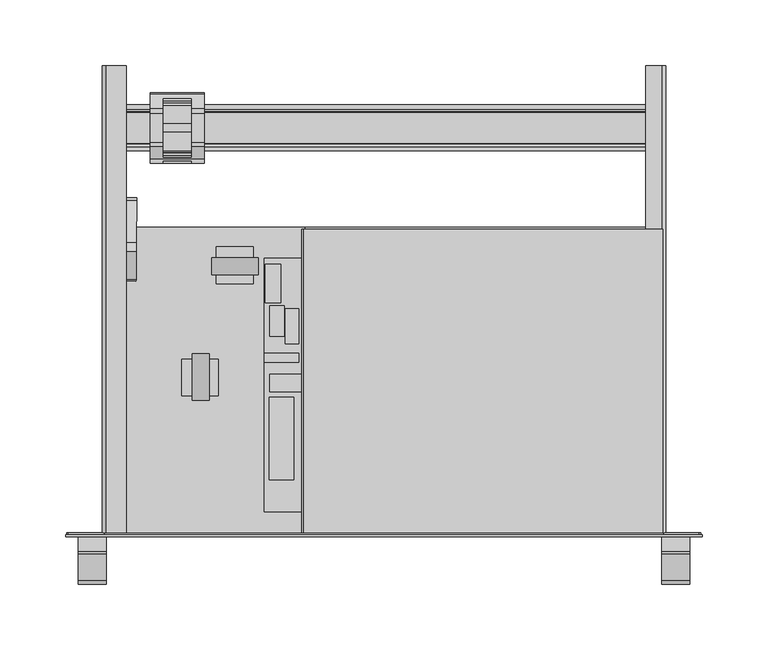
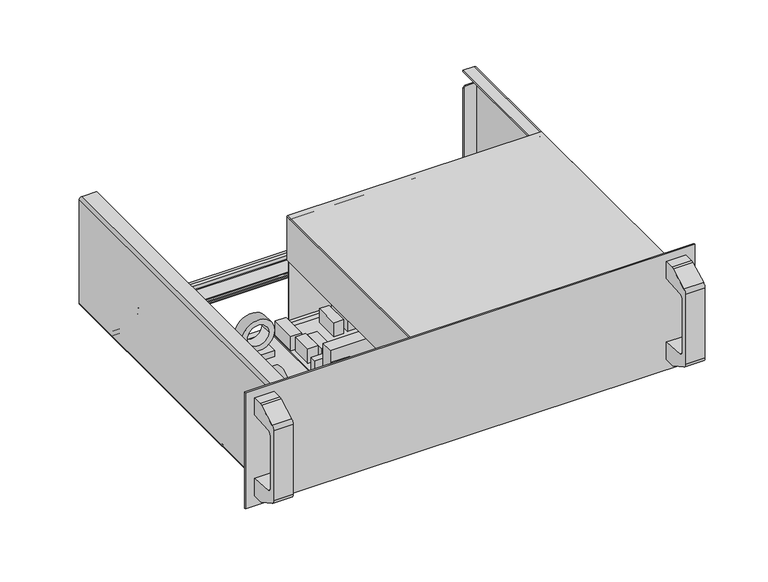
"""IFC4 building model written with IfcOpenShell, lengths in millimetres: proxy geometry, EV 12A 48A RACK : EV 12A 48A RACK."""

from ifc_helpers import new_model, si_unit, point, frame, frame_2d, origin, origin_with_axes, place, context, project, spatial, polyline, circle_curve, trimmed, segment, composite_curve, outline, extrude, source, transform, mapped, element, save


def electrical_equipment_aec54d99(model_context):
    return source(origin(), model_context, "Body", "SweptSolid", [
        extrude(outline(polyline([(-72.7569732, 16.9845943), (33.7706268, 16.9845943), (33.7706268, 3.7100417), (-72.7569732, 3.7100417), (-72.7569732, 16.9845943)])), frame((0.0, 0.0, 19.1), z_axis=(0.0, 0.0, 1.0), x_axis=(1.0, 0.0, 0.0)), (0.0, 0.0, 1.0), 40.2),
        extrude(outline(composite_curve([segment(trimmed(circle_curve(frame_2d((-36.429194, -14.4402246)), 6.7), [point((-43.129194, -14.4402246))], [point((-29.729194, -14.4402246))], False, "CARTESIAN"), True, "CONTINUOUS"), segment(trimmed(circle_curve(frame_2d((-36.429194, -14.4402246)), 6.7), [point((-29.729194, -14.4402246))], [point((-43.129194, -14.4402246))], False, "CARTESIAN"), True, "CONTINUOUS")], self_intersect=False)), frame((0.0, 0.0, 19.1), z_axis=(0.0, 0.0, 1.0), x_axis=(1.0, 0.0, 0.0)), (0.0, 0.0, 1.0), 31.5),
        extrude(outline(composite_curve([segment(trimmed(circle_curve(frame_2d((-34.5093887, -36.0838951)), 7.1), [point((-41.6093887, -36.0838951))], [point((-27.4093887, -36.0838951))], False, "CARTESIAN"), True, "CONTINUOUS"), segment(trimmed(circle_curve(frame_2d((-34.5093887, -36.0838951)), 7.1), [point((-27.4093887, -36.0838951))], [point((-41.6093887, -36.0838951))], False, "CARTESIAN"), True, "CONTINUOUS")], self_intersect=False)), frame((0.0, 0.0, 19.1), z_axis=(0.0, 0.0, 1.0), x_axis=(1.0, 0.0, 0.0)), (0.0, 0.0, 1.0), 31.5),
        extrude(outline(composite_curve([segment(trimmed(circle_curve(frame_2d((-40.6186425, -51.8764288)), 6.8), [point((-47.4186425, -51.8764288))], [point((-33.8186425, -51.8764288))], False, "CARTESIAN"), True, "CONTINUOUS"), segment(trimmed(circle_curve(frame_2d((-40.6186425, -51.8764288)), 6.8), [point((-33.8186425, -51.8764288))], [point((-47.4186425, -51.8764288))], False, "CARTESIAN"), True, "CONTINUOUS")], self_intersect=False)), frame((0.0, 0.0, 19.1), z_axis=(0.0, 0.0, 1.0), x_axis=(1.0, 0.0, 0.0)), (0.0, 0.0, 1.0), 31.5),
        extrude(outline(polyline([(-21.2703727, -25.5856057), (7.7618273, -25.5856057), (7.7618273, -37.3966057), (-21.2703727, -37.3966057), (-21.2703727, -25.5856057)])), frame((0.0, 0.0, 17.5), z_axis=(0.0, 0.0, 1.0), x_axis=(1.0, 0.0, 0.0)), (0.0, 0.0, 1.0), 17.8),
        extrude(outline(polyline([(-21.2703727, -9.9646057), (7.3880344, -9.9646057), (7.3880344, -22.1300845), (-21.2703727, -22.1300845), (-21.2703727, -9.9646057)])), frame((0.0, 0.0, 17.5), z_axis=(0.0, 0.0, 1.0), x_axis=(1.0, 0.0, 0.0)), (0.0, 0.0, 1.0), 17.8),
        extrude(outline(polyline([(-21.0417727, -71.2294057), (-21.0417727, -42.1972057), (-9.2307727, -42.1972057), (-9.2307727, -71.2294057), (-21.0417727, -71.2294057)])), frame((0.0, 0.0, 17.5), z_axis=(0.0, 0.0, 1.0), x_axis=(1.0, 0.0, 0.0)), (0.0, 0.0, 1.0), 17.8),
        extrude(outline(polyline([(-50.8105727, 32.701795), (-50.8105727, 26.1933546), (-76.8963727, 26.1933546), (-76.8963727, 32.701795), (-50.8105727, 32.701795)])), frame((0.0, 0.0, 17.5), z_axis=(0.0, 0.0, 1.0), x_axis=(1.0, 0.0, 0.0)), (0.0, 0.0, 1.0), 17.8),
        extrude(outline(polyline([(-61.7587732, 68.7245943), (-61.7587732, 45.8645943), (-72.7569732, 45.8645943), (-72.7569732, 68.7245943), (-61.7587732, 68.7245943)])), frame((0.0, 0.0, 17.5), z_axis=(0.0, 0.0, 1.0), x_axis=(1.0, 0.0, 0.0)), (0.0, 0.0, 1.0), 17.8),
        extrude(outline(polyline([(-64.5265727, 100.3475943), (-64.5265727, 71.3153943), (-76.3375727, 71.3153943), (-76.3375727, 100.3475943), (-64.5265727, 100.3475943)])), frame((0.0, 0.0, 17.5), z_axis=(0.0, 0.0, 1.0), x_axis=(1.0, 0.0, 0.0)), (0.0, 0.0, 1.0), 17.8),
        extrude(outline(polyline([(-50.8105727, 66.5655943), (-50.8105727, 40.0479943), (-61.1900833, 40.0479943), (-61.1900833, 66.5655943), (-50.8105727, 66.5655943)])), frame((0.0, 0.0, 17.5), z_axis=(0.0, 0.0, 1.0), x_axis=(1.0, 0.0, 0.0)), (0.0, 0.0, 1.0), 17.8),
        extrude(outline(polyline([(-111.9035169, 28.2806945), (-111.9035169, 0.6367966), (-139.6936789, 0.6367966), (-139.6936789, 28.2806945), (-111.9035169, 28.2806945)])), frame((0.0, 0.0, 7.5), z_axis=(0.0, 0.0, 1.0), x_axis=(1.0, 0.0, 0.0)), (0.0, 0.0, 1.0), 6.5411735),
        extrude(outline(polyline([(-85.4693798, 113.6425951), (-85.4693798, 85.5525919), (-113.559383, 85.5525919), (-113.559383, 113.6425951), (-85.4693798, 113.6425951)])), frame((0.0, 0.0, 7.5), z_axis=(0.0, 0.0, 1.0), x_axis=(1.0, 0.0, 0.0)), (0.0, 0.0, 1.0), 6.5411735),
        extrude(outline(composite_curve([segment(polyline([(129.0, 225.5526273), (129.0, -47.4473727)]), True, "CONTINUOUS"), segment(trimmed(circle_curve(frame_2d((128.0, -47.4473727)), 1.0), [point((129.0, -47.4473727))], [point((128.0, -48.4473727))], False, "CARTESIAN"), True, "CONTINUOUS"), segment(polyline([(128.0, -48.4473727), (79.0, -48.4473727), (79.0, -47.4473727), (128.0, -47.4473727), (128.0, 225.5526273), (129.0, 225.5526273)]), True, "CONTINUOUS")], self_intersect=False)), frame((0.0, -103.5804057, 0.0), z_axis=(0.0, 1.0, 0.0), x_axis=(0.0, 0.0, 1.0)), (0.0, 0.0, 1.0), 230.5),
        extrude(outline(composite_curve([segment(trimmed(circle_curve(frame_2d((14.8869551, 31.5628403)), 17.6593111), [point((32.5462662, 31.5628403))], [point((-2.7723559, 31.5628403))], False, "CARTESIAN"), True, "CONTINUOUS"), segment(trimmed(circle_curve(frame_2d((14.8869551, 31.5628403)), 17.6593111), [point((-2.7723559, 31.5628403))], [point((32.5462662, 31.5628403))], False, "CARTESIAN"), True, "CONTINUOUS")], self_intersect=False), holes=[composite_curve([segment(trimmed(circle_curve(frame_2d((14.8869551, 31.5628403)), 11.5), [point((26.3869551, 31.5628403))], [point((3.3869551, 31.5628403))], True, "CARTESIAN"), True, "CONTINUOUS"), segment(trimmed(circle_curve(frame_2d((14.8869551, 31.5628403)), 11.5), [point((3.3869551, 31.5628403))], [point((26.3869551, 31.5628403))], True, "CARTESIAN"), True, "CONTINUOUS")], self_intersect=False)]), frame((-131.5973727, 0.0, 0.0), z_axis=(1.0, 0.0, 0.0), x_axis=(0.0, 1.0, 0.0)), (0.0, 0.0, 1.0), 12.75),
        extrude(outline(composite_curve([segment(trimmed(circle_curve(frame_2d((36.1, 151.0880473)), 17.6593111), [point((36.1, 168.7473583))], [point((36.1, 133.4287362))], False, "CARTESIAN"), True, "CONTINUOUS"), segment(trimmed(circle_curve(frame_2d((36.1, 151.0880473)), 17.6593111), [point((36.1, 133.4287362))], [point((36.1, 168.7473583))], False, "CARTESIAN"), True, "CONTINUOUS")], self_intersect=False), holes=[composite_curve([segment(trimmed(circle_curve(frame_2d((36.1, 151.0880473)), 11.5), [point((36.1, 162.5880473))], [point((36.1, 139.5880473))], True, "CARTESIAN"), True, "CONTINUOUS"), segment(trimmed(circle_curve(frame_2d((36.1, 151.0880473)), 11.5), [point((36.1, 139.5880473))], [point((36.1, 162.5880473))], True, "CARTESIAN"), True, "CONTINUOUS")], self_intersect=False)]), frame((0.0, 39.6966943, 0.0), z_axis=(0.0, 1.0, 0.0), x_axis=(0.0, 0.0, 1.0)), (0.0, 0.0, 1.0), 18.0),
        extrude(outline(composite_curve([segment(trimmed(circle_curve(frame_2d((36.1, 76.9425516)), 17.0), [point((36.1, 93.9425516))], [point((36.1, 59.9425516))], False, "CARTESIAN"), True, "CONTINUOUS"), segment(trimmed(circle_curve(frame_2d((36.1, 76.9425516)), 17.0), [point((36.1, 59.9425516))], [point((36.1, 93.9425516))], False, "CARTESIAN"), True, "CONTINUOUS")], self_intersect=False), holes=[composite_curve([segment(trimmed(circle_curve(frame_2d((36.1, 76.9425516)), 11.5), [point((36.1, 88.4425516))], [point((36.1, 65.4425516))], True, "CARTESIAN"), True, "CONTINUOUS"), segment(trimmed(circle_curve(frame_2d((36.1, 76.9425516)), 11.5), [point((36.1, 65.4425516))], [point((36.1, 88.4425516))], True, "CARTESIAN"), True, "CONTINUOUS")], self_intersect=False)]), frame((0.0, -36.8549363, 0.0), z_axis=(0.0, 1.0, 0.0), x_axis=(0.0, 0.0, 1.0)), (0.0, 0.0, 1.0), 12.75),
        extrude(outline(composite_curve([segment(trimmed(circle_curve(frame_2d((36.1, 36.4625333)), 17.6593111), [point((36.1, 54.1218443))], [point((36.1, 18.8032222))], False, "CARTESIAN"), True, "CONTINUOUS"), segment(trimmed(circle_curve(frame_2d((36.1, 36.4625333)), 17.6593111), [point((36.1, 18.8032222))], [point((36.1, 54.1218443))], False, "CARTESIAN"), True, "CONTINUOUS")], self_intersect=False), holes=[composite_curve([segment(trimmed(circle_curve(frame_2d((36.1, 36.4625333)), 11.5), [point((36.1, 47.9625333))], [point((36.1, 24.9625333))], True, "CARTESIAN"), True, "CONTINUOUS"), segment(trimmed(circle_curve(frame_2d((36.1, 36.4625333)), 11.5), [point((36.1, 24.9625333))], [point((36.1, 47.9625333))], True, "CARTESIAN"), True, "CONTINUOUS")], self_intersect=False)]), frame((0.0, -36.8549363, 0.0), z_axis=(0.0, 1.0, 0.0), x_axis=(0.0, 0.0, 1.0)), (0.0, 0.0, 1.0), 12.75),
        extrude(outline(composite_curve([segment(trimmed(circle_curve(frame_2d((31.5628403, -99.2386196)), 17.6593111), [point((31.5628403, -81.5793086))], [point((31.5628403, -116.8979307))], False, "CARTESIAN"), True, "CONTINUOUS"), segment(trimmed(circle_curve(frame_2d((31.5628403, -99.2386196)), 17.6593111), [point((31.5628403, -116.8979307))], [point((31.5628403, -81.5793086))], False, "CARTESIAN"), True, "CONTINUOUS")], self_intersect=False), holes=[composite_curve([segment(trimmed(circle_curve(frame_2d((31.5628403, -99.2386196)), 11.5), [point((31.5628403, -87.7386196))], [point((31.5628403, -110.7386196))], True, "CARTESIAN"), True, "CONTINUOUS"), segment(trimmed(circle_curve(frame_2d((31.5628403, -99.2386196)), 11.5), [point((31.5628403, -110.7386196))], [point((31.5628403, -87.7386196))], True, "CARTESIAN"), True, "CONTINUOUS")], self_intersect=False)]), frame((0.0, 92.4195943, 0.0), z_axis=(0.0, 1.0, 0.0), x_axis=(0.0, 0.0, 1.0)), (0.0, 0.0, 1.0), 12.75),
        extrude(outline(polyline([(-54.7983727, -0.4904057), (-54.7983727, -63.3554057), (-73.2133727, -63.3554057), (-73.2133727, -0.4904057), (-54.7983727, -0.4904057)])), frame((0.0, 0.0, 19.1), z_axis=(0.0, 0.0, 1.0), x_axis=(1.0, 0.0, 0.0)), (0.0, 0.0, 1.0), 29.5),
        extrude(outline(polyline([(167.0808273, -43.9650679), (167.0808273, -73.1742057), (167.0808273, -86.3958226), (147.0808273, -86.3958226), (36.9442273, -86.3958226), (36.9442273, -56.3716057), (147.0808273, -56.3716057), (147.0808273, -43.9650679), (167.0808273, -43.9650679)])), frame((0.0, 0.0, 19.1), z_axis=(0.0, 0.0, 1.0), x_axis=(1.0, 0.0, 0.0)), (0.0, 0.0, 1.0), 45.0),
        extrude(outline(polyline([(128.7611737, 64.1017943), (128.7611737, 38.0667943), (120.4730775, 38.0667943), (120.4730775, 64.1017943), (128.7611737, 64.1017943)])), frame((0.0, 0.0, 17.5), z_axis=(0.0, 0.0, 1.0), x_axis=(1.0, 0.0, 0.0)), (0.0, 0.0, 1.0), 17.8),
        extrude(outline(polyline([(171.7442273, -87.5616057), (-77.0233727, -87.5616057), (-77.0233727, 104.9957943), (171.7442273, 104.9957943), (171.7442273, -87.5616057)])), frame((0.0, 0.0, 17.5), z_axis=(0.0, 0.0, 1.0), x_axis=(1.0, 0.0, 0.0)), (0.0, 0.0, 1.0), 1.6),
        extrude(outline(polyline([(161.0508273, 30.2943943), (161.0508273, -28.1256057), (100.8020273, -28.1256057), (100.8020273, 30.2943943), (161.0508273, 30.2943943)])), frame((0.0, 0.0, 19.1), z_axis=(0.0, 0.0, 1.0), x_axis=(1.0, 0.0, 0.0)), (0.0, 0.0, 1.0), 55.0),
        extrude(outline(polyline([(-20.2035727, 97.1725943), (-20.2035727, 70.6549943), (-30.5830833, 70.6549943), (-30.5830833, 97.1725943), (-20.2035727, 97.1725943)])), frame((0.0, 0.0, 17.5), z_axis=(0.0, 0.0, 1.0), x_axis=(1.0, 0.0, 0.0)), (0.0, 0.0, 1.0), 17.8),
        extrude(outline(polyline([(167.0808273, 101.8257943), (167.0808273, 71.8257943), (167.0808273, 61.2614943), (147.0808273, 61.2614943), (147.0808273, 71.8257943), (-15.1357727, 71.8257943), (-15.1357727, 101.8257943), (167.0808273, 101.8257943)])), frame((0.0, 0.0, 19.1), z_axis=(0.0, 0.0, 1.0), x_axis=(1.0, 0.0, 0.0)), (0.0, 0.0, 1.0), 45.0),
        extrude(outline(composite_curve([segment(trimmed(circle_curve(frame_2d((102.3743586, 50.3664957)), 17.6348629), [point((84.7394956, 50.3664957))], [point((120.0092215, 50.3664957))], False, "CARTESIAN"), True, "CONTINUOUS"), segment(trimmed(circle_curve(frame_2d((102.3743586, 50.3664957)), 17.6348629), [point((120.0092215, 50.3664957))], [point((84.7394956, 50.3664957))], False, "CARTESIAN"), True, "CONTINUOUS")], self_intersect=False)), frame((0.0, 0.0, 19.1), z_axis=(0.0, 0.0, 1.0), x_axis=(1.0, 0.0, 0.0)), (0.0, 0.0, 1.0), 42.0),
        extrude(outline(composite_curve([segment(trimmed(circle_curve(frame_2d((66.596714, 50.2520288)), 17.6348629), [point((48.9618511, 50.2520288))], [point((84.231577, 50.2520288))], False, "CARTESIAN"), True, "CONTINUOUS"), segment(trimmed(circle_curve(frame_2d((66.596714, 50.2520288)), 17.6348629), [point((84.231577, 50.2520288))], [point((48.9618511, 50.2520288))], False, "CARTESIAN"), True, "CONTINUOUS")], self_intersect=False)), frame((0.0, 0.0, 19.1), z_axis=(0.0, 0.0, 1.0), x_axis=(1.0, 0.0, 0.0)), (0.0, 0.0, 1.0), 42.0),
        extrude(outline(composite_curve([segment(trimmed(circle_curve(frame_2d((84.2982971, -8.7470869)), 8.2), [point((76.0982971, -8.7470869))], [point((92.4982971, -8.7470869))], False, "CARTESIAN"), True, "CONTINUOUS"), segment(trimmed(circle_curve(frame_2d((84.2982971, -8.7470869)), 8.2), [point((92.4982971, -8.7470869))], [point((76.0982971, -8.7470869))], False, "CARTESIAN"), True, "CONTINUOUS")], self_intersect=False)), frame((0.0, 0.0, 19.1), z_axis=(0.0, 0.0, 1.0), x_axis=(1.0, 0.0, 0.0)), (0.0, 0.0, 1.0), 37.0),
        extrude(outline(composite_curve([segment(trimmed(circle_curve(frame_2d((66.412201, -8.7470869)), 8.2), [point((58.212201, -8.7470869))], [point((74.612201, -8.7470869))], False, "CARTESIAN"), True, "CONTINUOUS"), segment(trimmed(circle_curve(frame_2d((66.412201, -8.7470869)), 8.2), [point((74.612201, -8.7470869))], [point((58.212201, -8.7470869))], False, "CARTESIAN"), True, "CONTINUOUS")], self_intersect=False)), frame((0.0, 0.0, 19.1), z_axis=(0.0, 0.0, 1.0), x_axis=(1.0, 0.0, 0.0)), (0.0, 0.0, 1.0), 37.0),
        extrude(outline(composite_curve([segment(trimmed(circle_curve(frame_2d((49.3707124, -8.7470869)), 8.2), [point((41.1707124, -8.7470869))], [point((57.5707124, -8.7470869))], False, "CARTESIAN"), True, "CONTINUOUS"), segment(trimmed(circle_curve(frame_2d((49.3707124, -8.7470869)), 8.2), [point((57.5707124, -8.7470869))], [point((41.1707124, -8.7470869))], False, "CARTESIAN"), True, "CONTINUOUS")], self_intersect=False)), frame((0.0, 0.0, 19.1), z_axis=(0.0, 0.0, 1.0), x_axis=(1.0, 0.0, 0.0)), (0.0, 0.0, 1.0), 37.0),
        extrude(outline(composite_curve([segment(polyline([(125.4195943, 124.5), (118.4195943, 124.5), (113.4195943, 124.5), (113.4195943, 126.0), (118.4195943, 126.0), (125.4195943, 126.0)]), True, "CONTINUOUS"), segment(trimmed(circle_curve(frame_2d((125.4195943, 123.0)), 3.0), [point((125.4195943, 126.0))], [point((128.4195943, 123.0))], False, "CARTESIAN"), True, "CONTINUOUS"), segment(polyline([(128.4195943, 123.0), (128.4195943, 9.0)]), True, "CONTINUOUS"), segment(trimmed(circle_curve(frame_2d((125.4195943, 9.0)), 3.0), [point((128.4195943, 9.0))], [point((125.4195943, 6.0))], False, "CARTESIAN"), True, "CONTINUOUS"), segment(polyline([(125.4195943, 6.0), (-103.5804057, 6.0), (-103.5804057, 7.5), (125.4195943, 7.5)]), True, "CONTINUOUS"), segment(trimmed(circle_curve(frame_2d((125.4195943, 9.0)), 1.5), [point((125.4195943, 7.5))], [point((126.9195943, 9.0))], True, "CARTESIAN"), True, "CONTINUOUS"), segment(polyline([(126.9195943, 9.0), (126.9195943, 123.0)]), True, "CONTINUOUS"), segment(trimmed(circle_curve(frame_2d((125.4195943, 123.0)), 1.5), [point((126.9195943, 123.0))], [point((125.4195943, 124.5))], True, "CARTESIAN"), True, "CONTINUOUS")], self_intersect=False)), frame((-45.8473727, 0.0, 0.0), z_axis=(1.0, 0.0, 0.0), x_axis=(0.0, 1.0, 0.0)), (0.0, 0.0, 1.0), 270.4),
        extrude(outline(polyline([(222.5526273, -103.5804057), (-194.8473727, -103.5804057), (-196.8473727, -101.5804057), (-196.8026476, 126.4643194), (-194.8473727, 128.4195943), (-45.8473727, 128.4195943), (-45.8473727, 125.4195943), (224.5526273, 125.4195943), (224.5526273, -101.5804057), (222.5526273, -103.5804057)])), frame((0.0, 0.0, 6.0), z_axis=(0.0, 0.0, 1.0), x_axis=(1.0, 0.0, 0.0)), (0.0, 0.0, 1.0), 1.5),
        extrude(outline(polyline([(25.7676273, -77.5794057), (-6.2307727, -77.5794057), (-9.2307727, -74.5794057), (-9.2307727, -44.8162057), (-6.2307727, -41.8162057), (25.7676273, -41.8162057), (28.7676273, -44.8162057), (28.7676273, -74.5794057), (25.7676273, -77.5794057)])), frame((0.0, 0.0, 19.1), z_axis=(0.0, 0.0, 1.0), x_axis=(1.0, 0.0, 0.0)), (0.0, 0.0, 1.0), 49.3),
        extrude(outline(composite_curve([segment(trimmed(circle_curve(frame_2d((0.0, -2.0)), 2.0), [point((-2.0, -2.0))], [point((0.0, 0.0))], False, "CARTESIAN"), True, "CONTINUOUS"), segment(polyline([(0.0, 0.0), (24.0, 0.0)]), True, "CONTINUOUS"), segment(trimmed(circle_curve(frame_2d((24.0, -2.0)), 2.0), [point((24.0, 0.0))], [point((26.0, -2.0))], False, "CARTESIAN"), True, "CONTINUOUS"), segment(polyline([(26.0, -2.0), (26.0, -26.0)]), True, "CONTINUOUS"), segment(trimmed(circle_curve(frame_2d((24.0, -26.0)), 2.0), [point((26.0, -26.0))], [point((24.0, -28.0))], False, "CARTESIAN"), True, "CONTINUOUS"), segment(polyline([(24.0, -28.0), (0.0, -28.0)]), True, "CONTINUOUS"), segment(trimmed(circle_curve(frame_2d((0.0, -26.0)), 2.0), [point((0.0, -28.0))], [point((-2.0, -26.0))], False, "CARTESIAN"), True, "CONTINUOUS"), segment(polyline([(-2.0, -26.0), (-2.0, -2.0)]), True, "CONTINUOUS")], self_intersect=False)), frame((-193.8376728, 151.7097301, 78.25), z_axis=(-0.999952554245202, 0.009741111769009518, 0.0), x_axis=(0.0, 0.0, -1.0)), (0.0, 0.0, 1.0), 2.25),
        extrude(outline(composite_curve([segment(polyline([(-34.5, 1e-07), (0.0, 0.0)]), True, "CONTINUOUS"), segment(trimmed(circle_curve(frame_2d((0.0, -4.9999999)), 5.0), [point((0.0, 0.0))], [point((5.0, -5.0))], False, "CARTESIAN"), True, "CONTINUOUS"), segment(polyline([(5.0, -5.0), (5.0, -45.5)]), True, "CONTINUOUS"), segment(trimmed(circle_curve(frame_2d((0.0, -45.4999999)), 5.0), [point((5.0, -45.5))], [point((0.0, -50.4999999))], False, "CARTESIAN"), True, "CONTINUOUS"), segment(polyline([(0.0, -50.4999999), (-34.5, -50.5)]), True, "CONTINUOUS"), segment(trimmed(circle_curve(frame_2d((-34.4999999, -45.5)), 5.0), [point((-34.5, -50.5))], [point((-39.5, -45.5))], False, "CARTESIAN"), True, "CONTINUOUS"), segment(polyline([(-39.5, -45.5), (-39.5, -4.9999999)]), True, "CONTINUOUS"), segment(trimmed(circle_curve(frame_2d((-34.5, -5.0)), 5.0), [point((-39.5, -4.9999999))], [point((-34.5, 1e-07))], False, "CARTESIAN"), True, "CONTINUOUS")], self_intersect=False)), frame((-174.4008274, 88.6700192, 59.3965701), z_axis=(-0.9999525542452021, 0.009741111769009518, 0.0), x_axis=(-0.005982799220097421, -0.6141511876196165, -0.7891657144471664)), (0.0, 0.0, 1.0), 22.3),
        extrude(outline(composite_curve([segment(polyline([(214.8061102, 42.0), (214.8061102, 39.77), (218.5030687, 39.77)]), True, "CONTINUOUS"), segment(trimmed(circle_curve(frame_2d((233.295733, 37.6855986)), 14.9387967), [point((218.5030687, 39.77))], [point((229.6869268, 23.1892485))], True, "CARTESIAN"), True, "CONTINUOUS"), segment(trimmed(circle_curve(frame_2d((229.1630734, 21.8125078)), 1.4730368), [point((229.6869268, 23.1892485))], [point((230.6361102, 21.8125078))], False, "CARTESIAN"), True, "CONTINUOUS"), segment(polyline([(230.6361102, 21.8125078), (230.6361102, 7.02), (177.1761102, 7.02), (177.1761102, 21.2676011)]), True, "CONTINUOUS"), segment(trimmed(circle_curve(frame_2d((181.0684245, 20.0682858)), 4.0728943), [point((177.1761102, 21.2676011))], [point((180.6544516, 24.1200871))], False, "CARTESIAN"), True, "CONTINUOUS"), segment(trimmed(circle_curve(frame_2d((167.6048379, 42.4611749)), 22.5097294), [point((180.6544516, 24.1200871))], [point((189.914943, 39.47))], True, "CARTESIAN"), True, "CONTINUOUS"), segment(polyline([(189.914943, 39.47), (193.0061102, 39.47), (193.0061102, 42.0), (214.8061102, 42.0)]), True, "CONTINUOUS")], self_intersect=False)), frame((-163.5789488, 0.0, 0.0), z_axis=(1.0, 0.0, 0.0), x_axis=(0.0, 1.0, 0.0)), (0.0, 0.0, 1.0), 40.85),
        extrude(outline(composite_curve([segment(polyline([(200.5311102, 55.5), (200.5311102, 48.0), (207.2811102, 48.0), (207.2811102, 55.5), (221.1561102, 55.5), (222.4949907, 54.1611195), (221.1446745, 52.8108033), (222.9643802, 47.210325), (224.6479699, 47.7573564), (226.1561102, 45.5214465), (226.1561102, 7.02), (177.1761102, 7.02), (177.1761102, 21.2676011)]), True, "CONTINUOUS"), segment(trimmed(circle_curve(frame_2d((179.3298135, 21.7331989)), 2.2034562), [point((177.1761102, 21.2676011))], [point((179.6190043, 23.9175954))], False, "CARTESIAN"), True, "CONTINUOUS"), segment(trimmed(circle_curve(frame_2d((178.536913, 32.1995402)), 8.352337), [point((179.6190043, 23.9175954))], [point((181.6561102, 24.4514991))], True, "CARTESIAN"), True, "CONTINUOUS"), segment(polyline([(181.6561102, 24.4514991), (181.6561102, 45.4999995), (183.1983583, 47.8084084), (184.9721071, 47.266119), (186.6619821, 52.7934513), (185.2938903, 54.1615431), (186.6323472, 55.5), (200.5311102, 55.5)]), True, "CONTINUOUS")], self_intersect=False)), frame((-153.5789488, 0.0, 0.0), z_axis=(1.0, 0.0, 0.0), x_axis=(0.0, 1.0, 0.0)), (0.0, 0.0, 1.0), 20.981576),
        extrude(outline(composite_curve([segment(polyline([(186.4061102, 13.5), (189.6061102, 13.5)]), True, "CONTINUOUS"), segment(trimmed(circle_curve(frame_2d((189.6061102, 11.7)), 1.8), [point((189.6061102, 13.5))], [point((191.4061102, 11.7))], False, "CARTESIAN"), True, "CONTINUOUS"), segment(polyline([(191.4061102, 11.7), (191.4061102, 7.8)]), True, "CONTINUOUS"), segment(trimmed(circle_curve(frame_2d((192.2061102, 7.8)), 0.8), [point((191.4061102, 7.8))], [point((192.2061102, 7.0))], True, "CARTESIAN"), True, "CONTINUOUS"), segment(polyline([(192.2061102, 7.0), (215.6061102, 7.0)]), True, "CONTINUOUS"), segment(trimmed(circle_curve(frame_2d((215.6061102, 7.8)), 0.8), [point((215.6061102, 7.0))], [point((216.4061102, 7.8))], True, "CARTESIAN"), True, "CONTINUOUS"), segment(polyline([(216.4061102, 7.8), (216.4061102, 11.7)]), True, "CONTINUOUS"), segment(trimmed(circle_curve(frame_2d((218.2072777, 11.7)), 1.8011675), [point((216.4061102, 11.7))], [point((218.1424361, 13.5))], False, "CARTESIAN"), True, "CONTINUOUS"), segment(polyline([(218.1424361, 13.5), (221.4061102, 13.5), (221.4061102, 12.5), (218.2061102, 12.5)]), True, "CONTINUOUS"), segment(trimmed(circle_curve(frame_2d((218.2061102, 11.7)), 0.8), [point((218.2061102, 12.5))], [point((217.4061102, 11.7))], True, "CARTESIAN"), True, "CONTINUOUS"), segment(polyline([(217.4061102, 11.7), (217.4061102, 7.5)]), True, "CONTINUOUS"), segment(trimmed(circle_curve(frame_2d((215.6061102, 7.83)), 1.83), [point((217.4061102, 7.5))], [point((215.6061102, 6.0))], False, "CARTESIAN"), True, "CONTINUOUS"), segment(polyline([(215.6061102, 6.0), (192.2061102, 6.0)]), True, "CONTINUOUS"), segment(trimmed(circle_curve(frame_2d((192.2061102, 7.8)), 1.8), [point((192.2061102, 6.0))], [point((190.4061102, 7.8))], False, "CARTESIAN"), True, "CONTINUOUS"), segment(polyline([(190.4061102, 7.8), (190.4061102, 11.7)]), True, "CONTINUOUS"), segment(trimmed(circle_curve(frame_2d((189.6061102, 11.7)), 0.8), [point((190.4061102, 11.7))], [point((189.6061102, 12.5))], True, "CARTESIAN"), True, "CONTINUOUS"), segment(polyline([(189.6061102, 12.5), (186.4061102, 12.5), (186.4061102, 13.5)]), True, "CONTINUOUS")], self_intersect=False)), frame((-198.5574135, 0.0, 0.0), z_axis=(1.0, 0.0, 0.0), x_axis=(0.0, 1.0, 0.0)), (0.0, 0.0, 1.0), 425.4100408),
        extrude(outline(polyline([(108.5, 212.5526273), (24.0, 212.5526273), (22.0, 214.5526273), (22.0, 226.0526273), (110.5, 226.0526273), (110.5, 214.5526273), (108.5, 212.5526273)])), frame((0.0, 249.4195943, 0.0), z_axis=(0.0, 1.0, 0.0), x_axis=(0.0, 0.0, 1.0)), (0.0, 0.0, 1.0), 1.5),
        extrude(outline(polyline([(22.0, -198.5574135), (22.0, -183.6213063), (24.0, -181.6214012), (108.5, -181.6214012), (110.5, -183.6213063), (110.5, -195.1207607), (110.5, -198.5574135), (22.0, -198.5574135)])), frame((0.0, 249.4195943, 0.0), z_axis=(0.0, 1.0, 0.0), x_axis=(0.0, 0.0, 1.0)), (0.0, 0.0, 1.0), 1.5),
        extrude(outline(polyline([(126.5, 253.3526273), (126.5, 226.0526273), (125.2589841, 226.0526273), (6.0, 226.0526273), (6.0, 253.3526273), (7.0, 254.3526273), (125.5, 254.3526273), (126.5, 253.3526273)])), frame((0.0, -105.0804057, 0.0), z_axis=(0.0, 1.0, 0.0), x_axis=(0.0, 0.0, 1.0)), (0.0, 0.0, 1.0), 1.5),
        extrude(outline(polyline([(126.5, -225.8726895), (125.5, -226.8726421), (7.0, -226.8726421), (6.0, -225.8726895), (6.0, -198.5574135), (126.5, -198.5574135), (126.5, -225.8726895)])), frame((0.0, -105.0804057, 0.0), z_axis=(0.0, 1.0, 0.0), x_axis=(0.0, 0.0, 1.0)), (0.0, 0.0, 1.0), 1.5),
        extrude(outline(composite_curve([segment(polyline([(126.5, -181.6408834), (128.0, -181.6408834), (128.0, -197.0574135)]), True, "CONTINUOUS"), segment(trimmed(circle_curve(frame_2d((124.987765, -197.0574135)), 3.012235), [point((128.0, -197.0574135))], [point((125.2589841, -200.0574135))], False, "CARTESIAN"), True, "CONTINUOUS"), segment(polyline([(125.2589841, -200.0574135), (7.5, -200.0574135)]), True, "CONTINUOUS"), segment(trimmed(circle_curve(frame_2d((7.5, -197.0574135)), 3.0), [point((7.5, -200.0574135))], [point((4.5, -197.0574135))], False, "CARTESIAN"), True, "CONTINUOUS"), segment(polyline([(4.5, -197.0574135), (4.5, -181.6408834), (6.0, -181.6408834), (6.0, -197.0574135)]), True, "CONTINUOUS"), segment(trimmed(circle_curve(frame_2d((7.8, -196.7274135)), 1.83), [point((6.0, -197.0574135))], [point((7.8, -198.5574135))], True, "CARTESIAN"), True, "CONTINUOUS"), segment(polyline([(7.8, -198.5574135), (125.2589841, -198.5574135)]), True, "CONTINUOUS"), segment(trimmed(circle_curve(frame_2d((124.9729767, -197.0574135)), 1.5270233), [point((125.2589841, -198.5574135))], [point((126.5, -197.0574135))], True, "CARTESIAN"), True, "CONTINUOUS"), segment(polyline([(126.5, -197.0574135), (126.5, -181.6408834)]), True, "CONTINUOUS")], self_intersect=False)), frame((0.0, -103.5804057, 0.0), z_axis=(0.0, 1.0, 0.0), x_axis=(0.0, 0.0, 1.0)), (0.0, 0.0, 1.0), 354.5573443),
        extrude(outline(composite_curve([segment(polyline([(126.5, 212.5526273), (126.5, 224.5526273)]), True, "CONTINUOUS"), segment(trimmed(circle_curve(frame_2d((124.9729767, 224.5526273)), 1.5270233), [point((126.5, 224.5526273))], [point((125.2589841, 226.0526273))], True, "CARTESIAN"), True, "CONTINUOUS"), segment(polyline([(125.2589841, 226.0526273), (7.8, 226.0526273)]), True, "CONTINUOUS"), segment(trimmed(circle_curve(frame_2d((7.8, 224.2226273)), 1.83), [point((7.8, 226.0526273))], [point((6.0, 224.5526273))], True, "CARTESIAN"), True, "CONTINUOUS"), segment(polyline([(6.0, 224.5526273), (6.0, 212.5526273), (4.5, 212.5526273), (4.5, 224.5526273)]), True, "CONTINUOUS"), segment(trimmed(circle_curve(frame_2d((7.5, 224.5526273)), 3.0), [point((4.5, 224.5526273))], [point((7.5, 227.5526273))], False, "CARTESIAN"), True, "CONTINUOUS"), segment(polyline([(7.5, 227.5526273), (125.2589841, 227.5526273)]), True, "CONTINUOUS"), segment(trimmed(circle_curve(frame_2d((124.987765, 224.5526273)), 3.012235), [point((125.2589841, 227.5526273))], [point((128.0, 224.5526273))], False, "CARTESIAN"), True, "CONTINUOUS"), segment(polyline([(128.0, 224.5526273), (128.0, 212.5526273), (126.5, 212.5526273)]), True, "CONTINUOUS")], self_intersect=False)), frame((0.0, -103.5804057, 0.0), z_axis=(0.0, 1.0, 0.0), x_axis=(0.0, 0.0, 1.0)), (0.0, 0.0, 1.0), 354.5573443),
        extrude(outline(composite_curve([segment(polyline([(-117.331115, 123.1995201), (-106.5804057, 123.1995201), (-106.5804057, 103.6995201), (-131.8561096, 101.9320707)]), True, "CONTINUOUS"), segment(trimmed(circle_curve(frame_2d((-131.5073272, 96.9442505)), 5.0), [point((-131.8561096, 101.9320707))], [point((-136.5073272, 96.9442505))], True, "CARTESIAN"), True, "CONTINUOUS"), segment(polyline([(-136.5073272, 96.9442505), (-136.5073272, 38.0557495)]), True, "CONTINUOUS"), segment(trimmed(circle_curve(frame_2d((-131.5073272, 38.0557495)), 5.0), [point((-136.5073272, 38.0557495))], [point((-131.8561096, 33.0679293))], True, "CARTESIAN"), True, "CONTINUOUS"), segment(polyline([(-131.8561096, 33.0679293), (-106.5804057, 31.3004799), (-106.5804057, 11.8004799), (-117.331115, 11.8004799)]), True, "CONTINUOUS"), segment(trimmed(circle_curve(frame_2d((-117.331115, 16.8004799)), 5.0), [point((-117.331115, 11.8004799))], [point((-119.682878, 12.388087))], False, "CARTESIAN"), True, "CONTINUOUS"), segment(polyline([(-119.682878, 12.388087), (-139.7590902, 23.0885151)]), True, "CONTINUOUS"), segment(trimmed(circle_curve(frame_2d((-137.4073272, 27.500908)), 5.0), [point((-139.7590902, 23.0885151))], [point((-142.4073272, 27.500908))], False, "CARTESIAN"), True, "CONTINUOUS"), segment(polyline([(-142.4073272, 27.500908), (-142.4073272, 107.499092)]), True, "CONTINUOUS"), segment(trimmed(circle_curve(frame_2d((-137.4073272, 107.499092)), 5.0), [point((-142.4073272, 107.499092))], [point((-139.7590902, 111.9114849))], False, "CARTESIAN"), True, "CONTINUOUS"), segment(polyline([(-139.7590902, 111.9114849), (-119.682878, 122.611913)]), True, "CONTINUOUS"), segment(trimmed(circle_curve(frame_2d((-117.331115, 118.1995201)), 5.0), [point((-119.682878, 122.611913))], [point((-117.331115, 123.1995201))], False, "CARTESIAN"), True, "CONTINUOUS")], self_intersect=False)), frame((224.8526273, 0.0, 0.0), z_axis=(1.0, 0.0, 0.0), x_axis=(0.0, 1.0, 0.0)), (0.0, 0.0, 1.0), 21.0),
        extrude(outline(composite_curve([segment(polyline([(-117.331115, 123.1995201), (-106.5804057, 123.1995201), (-106.5804057, 103.6995201), (-131.8561096, 101.9320707)]), True, "CONTINUOUS"), segment(trimmed(circle_curve(frame_2d((-131.5073272, 96.9442505)), 5.0), [point((-131.8561096, 101.9320707))], [point((-136.5073272, 96.9442505))], True, "CARTESIAN"), True, "CONTINUOUS"), segment(polyline([(-136.5073272, 96.9442505), (-136.5073272, 38.0557495)]), True, "CONTINUOUS"), segment(trimmed(circle_curve(frame_2d((-131.5073272, 38.0557495)), 5.0), [point((-136.5073272, 38.0557495))], [point((-131.8561096, 33.0679293))], True, "CARTESIAN"), True, "CONTINUOUS"), segment(polyline([(-131.8561096, 33.0679293), (-106.5804057, 31.3004799), (-106.5804057, 11.8004799), (-117.331115, 11.8004799)]), True, "CONTINUOUS"), segment(trimmed(circle_curve(frame_2d((-117.331115, 16.8004799)), 5.0), [point((-117.331115, 11.8004799))], [point((-119.682878, 12.388087))], False, "CARTESIAN"), True, "CONTINUOUS"), segment(polyline([(-119.682878, 12.388087), (-139.7590902, 23.0885151)]), True, "CONTINUOUS"), segment(trimmed(circle_curve(frame_2d((-137.4073272, 27.500908)), 5.0), [point((-139.7590902, 23.0885151))], [point((-142.4073272, 27.500908))], False, "CARTESIAN"), True, "CONTINUOUS"), segment(polyline([(-142.4073272, 27.500908), (-142.4073272, 107.499092)]), True, "CONTINUOUS"), segment(trimmed(circle_curve(frame_2d((-137.4073272, 107.499092)), 5.0), [point((-142.4073272, 107.499092))], [point((-139.7590902, 111.9114849))], False, "CARTESIAN"), True, "CONTINUOUS"), segment(polyline([(-139.7590902, 111.9114849), (-119.682878, 122.611913)]), True, "CONTINUOUS"), segment(trimmed(circle_curve(frame_2d((-117.331115, 118.1995201)), 5.0), [point((-119.682878, 122.611913))], [point((-117.331115, 123.1995201))], False, "CARTESIAN"), True, "CONTINUOUS")], self_intersect=False)), frame((-218.1473727, 0.0, 0.0), z_axis=(1.0, 0.0, 0.0), x_axis=(0.0, 1.0, 0.0)), (0.0, 0.0, 1.0), 21.0),
        extrude(outline(polyline([(255.3526273, -105.0804057), (255.3526273, -106.5804057), (-227.6473727, -106.5804057), (-227.6473727, -105.0804057), (255.3526273, -105.0804057)])), origin_with_axes(), (0.0, 0.0, 1.0), 132.0),
    ])


if __name__ == "__main__":
    model = new_model("IFC4")
    model_context = context("Model", 3, world=origin())
    ifc_project = project(units=[si_unit("LENGTHUNIT", "METRE", prefix="MILLI")], contexts=[model_context])
    site = spatial("IfcSite", under=ifc_project)
    building = spatial("IfcBuilding", under=site)
    placement = place(None, origin())
    electrical_equipment_shape = electrical_equipment_aec54d99(model_context)
    element("IfcBuildingElementProxy", 1, Name="EV 12A 48A RACK : EV 12A 48A RACK", ObjectType="EV 12A 48A RACK : EV 12A 48A RACK", at=placement, inside=building, context=model_context, shape_type="MappedRepresentation", body=[
        mapped(electrical_equipment_shape, transform((0.0, 0.0, 0.0), x_axis=(1.0, 0.0, 0.0), y_axis=(0.0, 1.0, 0.0), z_axis=(0.0, 0.0, 1.0))),
    ])
    save(model, "model.ifc")
